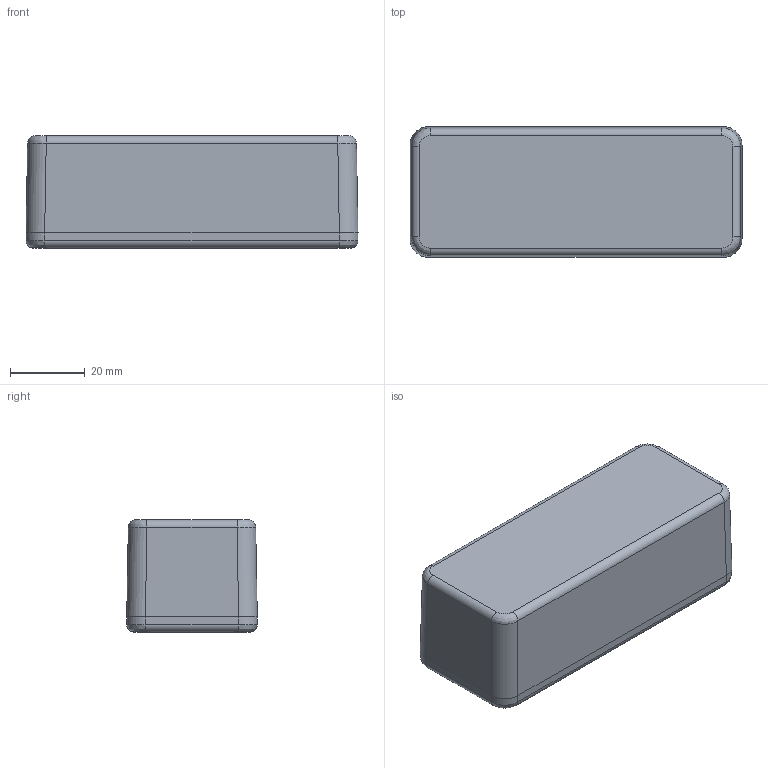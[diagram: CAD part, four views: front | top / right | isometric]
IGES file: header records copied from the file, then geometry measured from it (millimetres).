
Global section: file name: 1550A.iam; native system: Autodesk Inventor 2014; preprocessor: unknown; author: fwarzocha; date: 20141029.101312; units: millimetre
Bounding box: 89 x 35 x 30.1 mm (x, y, z)
Volume: 24741.5 mm3; surface area: 27038.4 mm2
Topology: 6 solids, 6 shells, 827 faces, 2242 edges, 1476 vertices
Faces by surface type: bspline 356, plane 351, revolution 82, cylinder 28, cone 10
Full cylindrical faces by diameter (mm): 3.43 x4
